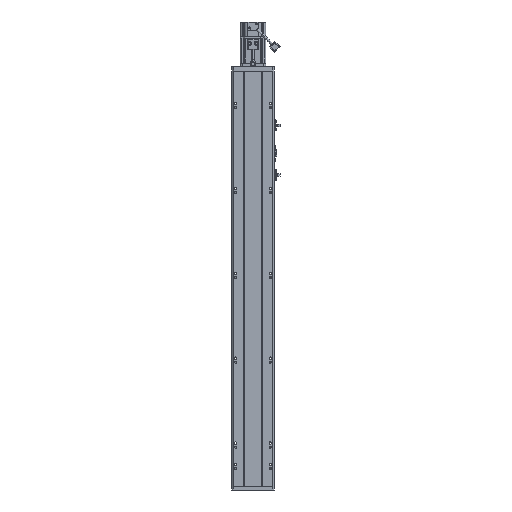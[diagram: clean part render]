
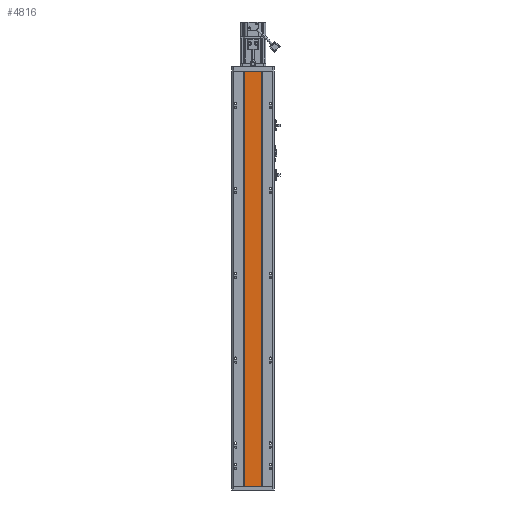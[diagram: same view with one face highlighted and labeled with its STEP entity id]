
A CAD part, front view. The second image highlights one B-rep face of the part: STEP entity #4816.
In plain terms, the highlighted planar face has unit normal (0, -1, 0).
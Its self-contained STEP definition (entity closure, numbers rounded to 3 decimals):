
#4816 = ADVANCED_FACE ( 'NONE', ( #45952 ), #96352, .F. ) ;
#7511 = VERTEX_POINT ( 'NONE', #61062 ) ;
#9224 = VERTEX_POINT ( 'NONE', #56056 ) ;
#10811 = VERTEX_POINT ( 'NONE', #36632 ) ;
#11439 = EDGE_CURVE ( 'NONE', #94471, #10811, #37711, .T. ) ;
#11580 = EDGE_CURVE ( 'NONE', #10811, #7511, #34526, .T. ) ;
#11601 = EDGE_CURVE ( 'NONE', #9224, #7511, #34847, .T. ) ;
#12165 = EDGE_CURVE ( 'NONE', #94471, #9224, #26888, .T. ) ;
#25588 = DIRECTION ( 'NONE',  ( -1., 0., 0. ) ) ;
#26668 = CARTESIAN_POINT ( 'NONE',  ( 20., 0., -978.5 ) ) ;
#26695 = VECTOR ( 'NONE', #25588, 1000. ) ;
#26888 = LINE ( 'NONE', #26668, #26695 ) ;
#34450 = VECTOR ( 'NONE', #56035, 1000. ) ;
#34526 = LINE ( 'NONE', #56164, #34450 ) ;
#34847 = LINE ( 'NONE', #54316, #77984 ) ;
#36632 = CARTESIAN_POINT ( 'NONE',  ( 20., 0., 0. ) ) ;
#37711 = LINE ( 'NONE', #66985, #38876 ) ;
#38876 = VECTOR ( 'NONE', #66725, 1000. ) ;
#38932 = CARTESIAN_POINT ( 'NONE',  ( 20., 0., -978.5 ) ) ;
#45952 = FACE_OUTER_BOUND ( 'NONE', #57323, .T. ) ;
#54221 = DIRECTION ( 'NONE',  ( 0., 0., 1. ) ) ;
#54316 = CARTESIAN_POINT ( 'NONE',  ( -20., 0., -978.5 ) ) ;
#56035 = DIRECTION ( 'NONE',  ( -1., 0., 0. ) ) ;
#56056 = CARTESIAN_POINT ( 'NONE',  ( -20., 0., -978.5 ) ) ;
#56164 = CARTESIAN_POINT ( 'NONE',  ( 20., 0., 0. ) ) ;
#57323 = EDGE_LOOP ( 'NONE', ( #91180, #92989, #93462, #93884 ) ) ;
#61062 = CARTESIAN_POINT ( 'NONE',  ( -20., 0., 0. ) ) ;
#63757 = AXIS2_PLACEMENT_3D ( 'NONE', #95230, #94901, #94764 ) ;
#66725 = DIRECTION ( 'NONE',  ( 0., 0., 1. ) ) ;
#66985 = CARTESIAN_POINT ( 'NONE',  ( 20., 0., -978.5 ) ) ;
#77984 = VECTOR ( 'NONE', #54221, 1000. ) ;
#91180 = ORIENTED_EDGE ( 'NONE', *, *, #11580, .T. ) ;
#92989 = ORIENTED_EDGE ( 'NONE', *, *, #11601, .F. ) ;
#93462 = ORIENTED_EDGE ( 'NONE', *, *, #12165, .F. ) ;
#93884 = ORIENTED_EDGE ( 'NONE', *, *, #11439, .T. ) ;
#94471 = VERTEX_POINT ( 'NONE', #38932 ) ;
#94764 = DIRECTION ( 'NONE',  ( -1., 0., 0. ) ) ;
#94901 = DIRECTION ( 'NONE',  ( 0., 1., 0. ) ) ;
#95230 = CARTESIAN_POINT ( 'NONE',  ( 20., 0., -978.5 ) ) ;
#96352 = PLANE ( 'NONE',  #63757 ) ;
